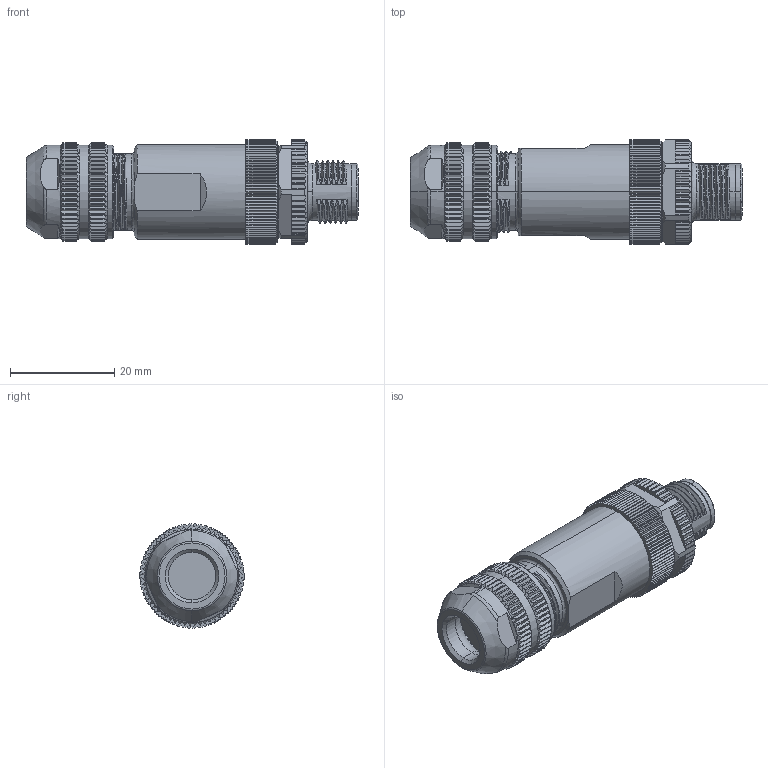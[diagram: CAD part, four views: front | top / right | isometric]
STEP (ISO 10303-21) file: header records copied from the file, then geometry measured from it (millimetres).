
FILE_DESCRIPTION (( 'STEP AP203' ), '1' );
FILE_NAME ('64F621.STEP', '2023-08-18T11:51:38', ( '' ), ( '' ), 'SwSTEP 2.0', 'SolidWorks 2016', '' );
FILE_SCHEMA (( 'CONFIG_CONTROL_DESIGN' ));
Length unit declared in the file: millimetre
Products named in the file (1): 64F621
Bounding box: 63.7 x 20 x 20 mm (x, y, z)
Volume: 11904.9 mm3; surface area: 7373.4 mm2
Topology: 1 solids, 19 shells, 1394 faces, 3758 edges, 2428 vertices
Faces by surface type: plane 693, cylinder 411, cone 190, bspline 88, torus 12
Entity records: 56581 total; most frequent: CARTESIAN_POINT 24300, ORIENTED_EDGE 7514, DIRECTION 5650, EDGE_CURVE 3757, VERTEX_POINT 2428, AXIS2_PLACEMENT_3D 2260, B_SPLINE_CURVE_WITH_KNOTS 1665, EDGE_LOOP 1455
